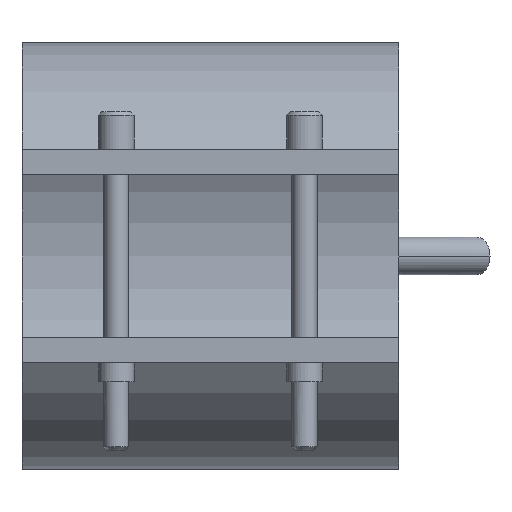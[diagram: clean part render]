
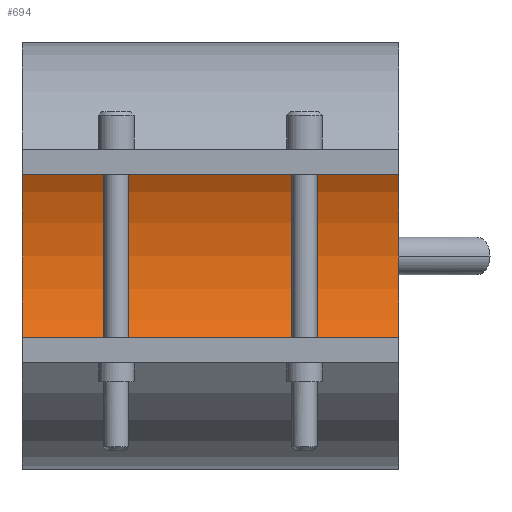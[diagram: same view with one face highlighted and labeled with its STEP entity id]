
A CAD part, front view. The second image highlights one B-rep face of the part: STEP entity #694.
In plain terms, the highlighted cylindrical face has radius 30 mm (diameter 60 mm), a partial arc.
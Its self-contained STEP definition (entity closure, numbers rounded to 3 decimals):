
#364=CARTESIAN_POINT('Vertex',(30.,0.,30.)) ;
#369=CARTESIAN_POINT('Axis2P3D Location',(30.,0.,0.)) ;
#373=CARTESIAN_POINT('Vertex',(30.,0.,-30.)) ;
#480=CARTESIAN_POINT('Vertex',(-30.,0.,-30.)) ;
#483=CARTESIAN_POINT('Axis2P3D Location',(-30.,0.,0.)) ;
#487=CARTESIAN_POINT('Vertex',(-30.,0.,30.)) ;
#666=CARTESIAN_POINT('Line Origine',(30.,0.,30.)) ;
#678=CARTESIAN_POINT('Axis2P3D Location',(30.,0.,0.)) ;
#683=CARTESIAN_POINT('Line Origine',(30.,0.,-30.)) ;
#370=DIRECTION('Axis2P3D Direction',(1.,0.,0.)) ;
#484=DIRECTION('Axis2P3D Direction',(1.,0.,0.)) ;
#667=DIRECTION('Vector Direction',(1.,0.,0.)) ;
#679=DIRECTION('Axis2P3D Direction',(1.,0.,-0.)) ;
#680=DIRECTION('Axis2P3D XDirection',(0.,0.,-1.)) ;
#684=DIRECTION('Vector Direction',(1.,0.,0.)) ;
#371=AXIS2_PLACEMENT_3D('Circle Axis2P3D',#369,#370,$) ;
#485=AXIS2_PLACEMENT_3D('Circle Axis2P3D',#483,#484,$) ;
#681=AXIS2_PLACEMENT_3D('Cylinder Axis2P3D',#678,#679,#680) ;
#689=ORIENTED_EDGE('',*,*,#375,.T.) ;
#690=ORIENTED_EDGE('',*,*,#670,.T.) ;
#691=ORIENTED_EDGE('',*,*,#489,.F.) ;
#692=ORIENTED_EDGE('',*,*,#687,.T.) ;
#668=VECTOR('Line Direction',#667,1.) ;
#685=VECTOR('Line Direction',#684,1.) ;
#694=ADVANCED_FACE('29060060',(#693),#682,.F.) ;
#372=CIRCLE('generated circle',#371,30.) ;
#486=CIRCLE('generated circle',#485,30.) ;
#682=CYLINDRICAL_SURFACE('generated cylinder',#681,30.) ;
#375=EDGE_CURVE('',#374,#365,#372,.T.) ;
#489=EDGE_CURVE('',#481,#488,#486,.T.) ;
#670=EDGE_CURVE('',#365,#488,#669,.F.) ;
#687=EDGE_CURVE('',#481,#374,#686,.T.) ;
#688=EDGE_LOOP('',(#689,#690,#691,#692)) ;
#693=FACE_OUTER_BOUND('',#688,.T.) ;
#669=LINE('Line',#666,#668) ;
#686=LINE('Line',#683,#685) ;
#365=VERTEX_POINT('',#364) ;
#374=VERTEX_POINT('',#373) ;
#481=VERTEX_POINT('',#480) ;
#488=VERTEX_POINT('',#487) ;
